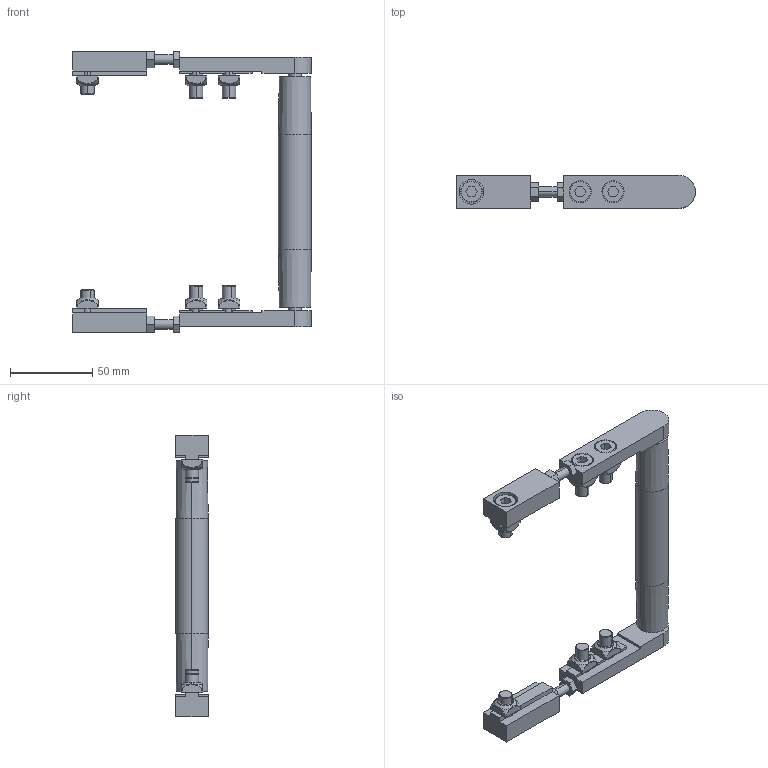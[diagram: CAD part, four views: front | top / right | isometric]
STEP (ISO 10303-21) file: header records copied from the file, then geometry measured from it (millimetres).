
FILE_DESCRIPTION (( 'STEP AP214' ), '1' );
FILE_NAME ('084.020.KI.120.STEP', '2021-02-05T13:53:43', ( '' ), ( '' ), 'SwSTEP 2.0', 'SolidWorks 2018', '' );
FILE_SCHEMA (( 'AUTOMOTIVE_DESIGN' ));
Length unit declared in the file: millimetre
Products named in the file (10): 084.301.000 VITI ALUSIC_084.301.003; 084.800.043; 084.800.012; 084.802.008; 084.800.008; 084.800.007; 084.800.002; circlip for shafts normal_din_PreviewCfg; 084.302.000 DADI ALUSIC 13x13-1_084.302.004; 084.020.KI.120
Assembly tree (27 placements, depth 2):
  084.020.KI.120
    084.802.008  x2
    084.301.000 VITI ALUSIC_084.301.003  x6
    084.302.000 DADI ALUSIC 13x13-1_084.302.004  x6
    084.800.043
    084.800.012  x4
    084.800.008  x2
    084.800.002  x2
    084.800.007  x2
    circlip for shafts normal_din_PreviewCfg  x2
Bounding box: 145 x 20 x 171 mm (x, y, z)
Volume: 86999.8 mm3; surface area: 57597.6 mm2
Topology: 31 solids, 31 shells, 654 faces, 1534 edges, 978 vertices
Faces by surface type: plane 250, cylinder 212, torus 112, cone 56, bspline 24
Entity records: 7297 total; most frequent: CARTESIAN_POINT 1531, DIRECTION 1185, ORIENTED_EDGE 1018, EDGE_CURVE 509, AXIS2_PLACEMENT_3D 471, VERTEX_POINT 327, EDGE_LOOP 250, LINE 243
